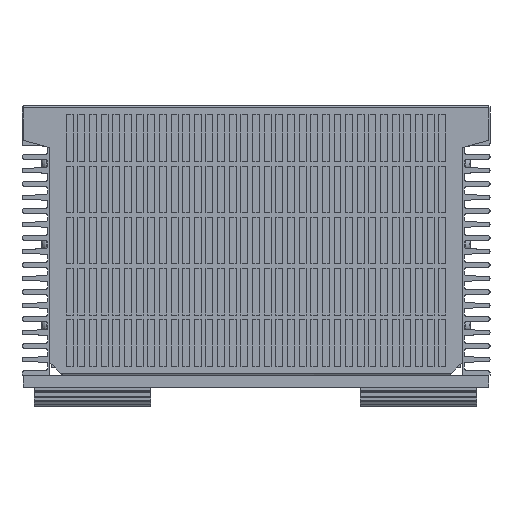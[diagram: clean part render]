
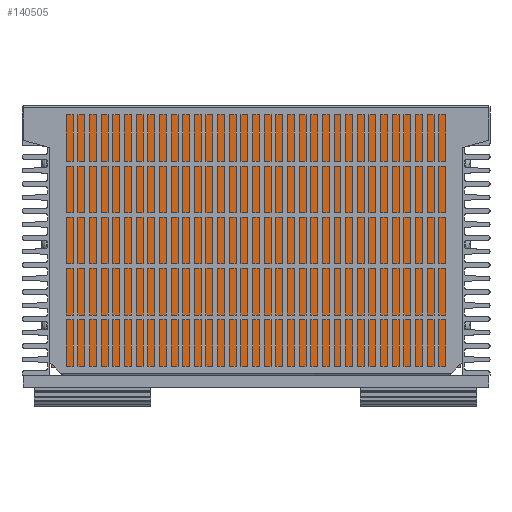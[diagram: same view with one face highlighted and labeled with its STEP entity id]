
A CAD part, front view. The second image highlights one B-rep face of the part: STEP entity #140505.
In plain terms, the highlighted planar face has unit normal (0, -1, 0).
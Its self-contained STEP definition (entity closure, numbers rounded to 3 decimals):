
#11060=LINE('',#190704,#26212);
#11066=LINE('',#190716,#26218);
#11076=LINE('',#190735,#26228);
#11077=LINE('',#190737,#26229);
#26212=VECTOR('',#160837,10.);
#26218=VECTOR('',#160845,10.);
#26228=VECTOR('',#160863,10.);
#26229=VECTOR('',#160866,10.);
#38788=PLANE('',#148791);
#45139=FACE_OUTER_BOUND('',#53575,.T.);
#53575=EDGE_LOOP('',(#103659,#103660,#103661,#103662));
#63929=VERTEX_POINT('',#190702);
#63930=VERTEX_POINT('',#190703);
#63935=VERTEX_POINT('',#190715);
#63940=VERTEX_POINT('',#190733);
#79035=EDGE_CURVE('',#63929,#63930,#11060,.T.);
#79041=EDGE_CURVE('',#63935,#63930,#11066,.T.);
#79051=EDGE_CURVE('',#63929,#63940,#11076,.T.);
#79052=EDGE_CURVE('',#63935,#63940,#11077,.T.);
#103659=ORIENTED_EDGE('',*,*,#79051,.T.);
#103660=ORIENTED_EDGE('',*,*,#79052,.F.);
#103661=ORIENTED_EDGE('',*,*,#79041,.T.);
#103662=ORIENTED_EDGE('',*,*,#79035,.F.);
#140505=ADVANCED_FACE('',(#45139),#38788,.T.);
#148791=AXIS2_PLACEMENT_3D('',#190736,#160864,#160865);
#160837=DIRECTION('',(0.,0.,1.));
#160845=DIRECTION('',(-1.,0.,0.));
#160863=DIRECTION('',(1.,0.,0.));
#160864=DIRECTION('center_axis',(0.,-1.,0.));
#160865=DIRECTION('ref_axis',(0.,0.,-1.));
#160866=DIRECTION('',(0.,0.,-1.));
#190702=CARTESIAN_POINT('',(-88.,-63.5,3.5));
#190703=CARTESIAN_POINT('',(-88.,-63.5,112.5));
#190704=CARTESIAN_POINT('',(-88.,-63.5,3.5));
#190715=CARTESIAN_POINT('',(88.,-63.5,112.5));
#190716=CARTESIAN_POINT('',(0.,-63.5,112.5));
#190733=CARTESIAN_POINT('',(88.,-63.5,3.5));
#190735=CARTESIAN_POINT('',(0.,-63.5,3.5));
#190736=CARTESIAN_POINT('Origin',(0.,-63.5,112.5));
#190737=CARTESIAN_POINT('',(88.,-63.5,3.5));
